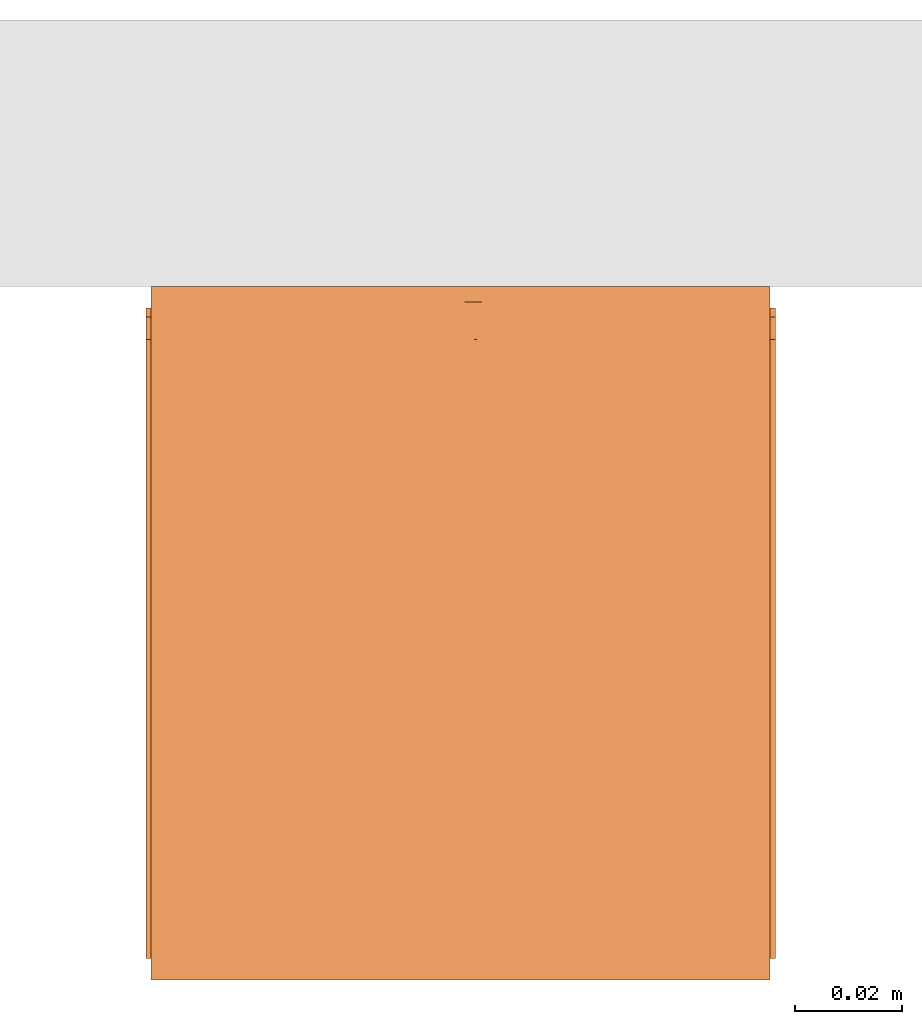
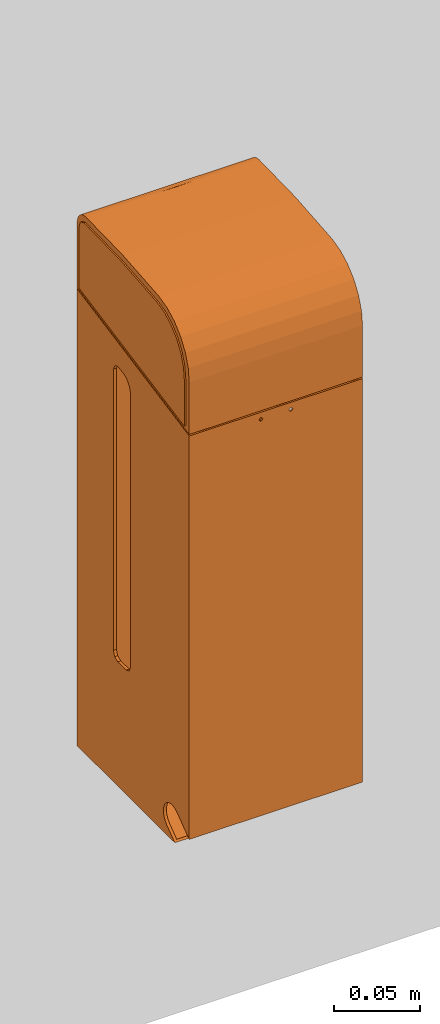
# One storey, part 2 of 2: 1 proxy.
"""IFC2X3 building model written with IfcOpenShell, lengths in millimetres."""

from ifc_helpers import new_model, entity, si_unit, converted_unit, derived_unit, direction, frame, origin, place, context, subcontext, project, spatial, faceted_brep, source, transform, mapped, element, save


model = new_model("IFC2X3")

# Units and contexts
model_context = context("Model", 3, precision=1e-05, world=origin(), true_north=direction((2.0, 6.12303176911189e-17, 1.0)))
context_of_model = context(None, 3, precision=1e-05, world=origin(), true_north=direction((2.0, 6.12303176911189e-17, 1.0)))
body_context = subcontext(model_context, "Body", "Model", "MODEL_VIEW")
ifc_project = project(units=[si_unit("LENGTHUNIT", "METRE", prefix="MILLI"), si_unit("AREAUNIT", "SQUARE_METRE"), si_unit("VOLUMEUNIT", "CUBIC_METRE"), converted_unit("PLANEANGLEUNIT", "DEGREE", entity("IfcRatioMeasure", 0.0174532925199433), si_unit("PLANEANGLEUNIT", "RADIAN"), dimensions=[0, 0, 0, 0, 0, 0, 0]), si_unit("MASSUNIT", "GRAM", prefix="KILO"), si_unit("TIMEUNIT", "SECOND"), si_unit("THERMODYNAMICTEMPERATUREUNIT", "KELVIN"), derived_unit("THERMALTRANSMITTANCEUNIT", [(si_unit("MASSUNIT", "GRAM", prefix="KILO"), 1), (si_unit("THERMODYNAMICTEMPERATUREUNIT", "KELVIN"), -1), (si_unit("TIMEUNIT", "SECOND"), -3)]), derived_unit("VOLUMETRICFLOWRATEUNIT", [(si_unit("LENGTHUNIT", "METRE"), 3), (si_unit("TIMEUNIT", "SECOND"), -1)]), si_unit("POWERUNIT", "WATT")], contexts=[model_context, context_of_model])

# Site, building, storey
site_placement = place(None, origin())
site = spatial("IfcSite", under=ifc_project, at=site_placement, Name="Default", CompositionType="ELEMENT")
building_placement = place(site_placement, origin())
building = spatial("IfcBuilding", under=site, at=building_placement, CompositionType="ELEMENT")
storey_placement = place(building_placement, origin())
storey = spatial("IfcBuildingStorey", under=building, at=storey_placement, Name="Level 1", CompositionType="ELEMENT", Elevation=0.0)

# Proxy
shared_shape = source(origin(), body_context, "Body", "Brep", [
    faceted_brep([(56.0, -125.983737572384, 335.704617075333), (56.0, -124.942873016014, 344.298734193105), (56.0, -121.880468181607, 352.395889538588), (56.0, -116.973609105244, 359.527858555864), (56.0, -110.506038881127, 365.282229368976), (56.0, -102.851749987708, 369.32625083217), (56.0, -94.4533578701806, 371.426074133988), (56.0, -73.3525424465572, 373.338848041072), (56.0, -52.2517270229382, 375.251621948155), (56.0, -37.0868323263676, 375.589126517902), (56.0, -23.4871910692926, 375.891795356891), (56.0, -9.88754981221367, 376.194464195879), (56.0, -5.71389210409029, 374.475570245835), (56.0, -3.98373757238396, 370.306567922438), (56.0, -3.98373757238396, 326.549898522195), (56.0, -125.983737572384, 302.835500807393), (59.0, -102.851749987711, 369.326250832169), (59.0, -110.506038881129, 365.282229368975), (59.0, -116.973609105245, 359.527858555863), (59.0, -121.880468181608, 352.395889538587), (59.0, -124.942873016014, 344.298734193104), (59.0, -125.983737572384, 335.704617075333), (59.0, -125.983737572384, 302.835500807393), (59.0, -3.98373757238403, 326.549898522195), (59.0, -3.98373757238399, 370.306567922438), (59.0, -5.71389210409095, 374.475570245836), (59.0, -9.88754981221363, 376.194464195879), (59.0, -31.0696384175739, 375.723043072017), (59.0, -52.251727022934, 375.251621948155), (59.0, -73.3525424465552, 373.338848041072), (59.0, -94.45335787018, 371.426074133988)], [[[0, 1, 2, 3, 4, 5, 6, 7, 8, 9, 10, 11, 12, 13, 14, 15]], [[16, 17, 18, 19, 20, 21, 22, 23, 24, 25, 26, 27, 28, 29, 30]], [[16, 30, 6, 5]], [[17, 16, 5, 4]], [[18, 17, 4, 3]], [[20, 19, 2, 1]], [[21, 20, 1, 0]], [[3, 2, 19, 18]], [[22, 21, 0, 15]], [[23, 22, 15, 14]], [[24, 23, 14, 13]], [[24, 13, 12, 25]], [[12, 11, 26, 25]], [[28, 27, 26, 11, 10, 9, 8]], [[29, 28, 8, 7, 6, 30]]]),
    faceted_brep([(-56.0, -52.2517270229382, 375.251621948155), (-56.0, -31.0696384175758, 375.723043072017), (-56.0, -9.8875498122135, 376.194464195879), (-59.0, -9.8875498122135, 376.194464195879), (-59.0, -23.4871903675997, 375.891795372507), (-59.0, -37.086830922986, 375.589126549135), (-59.0, -52.2517270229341, 375.251621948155), (-56.0, -73.3525424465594, 373.338848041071), (-59.0, -73.3525424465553, 373.338848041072), (-59.0, -94.4533578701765, 371.426074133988), (-56.0, -94.4533578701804, 371.426074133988), (-56.0, -3.98373757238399, 370.306567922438), (-59.0, -3.98373757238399, 370.306567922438), (-59.0, -5.71389210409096, 374.475570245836), (-56.0, -5.7138921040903, 374.475570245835), (-56.0, -3.98373757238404, 326.549898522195), (-59.0, -3.98373757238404, 326.549898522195), (-56.0, -102.851749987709, 369.32625083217), (-59.0, -102.851749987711, 369.326250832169), (-56.0, -110.506038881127, 365.282229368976), (-59.0, -110.506038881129, 365.282229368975), (-56.0, -116.973609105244, 359.527858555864), (-59.0, -116.973609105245, 359.527858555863), (-56.0, -121.880468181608, 352.395889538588), (-59.0, -121.880468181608, 352.395889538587), (-56.0, -124.942873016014, 344.298734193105), (-59.0, -124.942873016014, 344.298734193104), (-56.0, -125.983737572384, 335.704617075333), (-59.0, -125.983737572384, 335.704617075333), (-56.0, -125.983737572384, 302.835500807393), (-59.0, -125.983737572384, 302.835500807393)], [[[0, 1, 2, 3, 4, 5, 6]], [[7, 0, 6, 8, 9, 10]], [[11, 12, 13, 14]], [[13, 3, 2, 14]], [[11, 15, 16, 12]], [[17, 10, 9, 18]], [[19, 17, 18, 20]], [[21, 19, 20, 22]], [[23, 21, 22, 24]], [[25, 23, 24, 26]], [[27, 25, 26, 28]], [[29, 27, 28, 30]], [[15, 29, 30, 16]], [[11, 14, 2, 1, 0, 7, 10, 17, 19, 21, 23, 25, 27, 29, 15]], [[3, 13, 12, 16, 30, 28, 26, 24, 22, 20, 18, 9, 8, 6, 5, 4]]]),
    faceted_brep([(-58.0, -56.8158110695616, 87.9831127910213), (-56.0, -56.8158110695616, 87.9831127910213), (-56.0, -47.1196560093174, 87.9831127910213), (-58.0, -47.1196560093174, 87.9831127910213), (56.0, -56.8158110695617, 87.9831127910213), (58.0, -56.8158110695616, 87.9831127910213), (58.0, -47.1196560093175, 87.9831127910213), (56.0, -47.1196560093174, 87.9831127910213), (58.0, -60.3513449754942, 89.4475788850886), (56.0, -60.3513449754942, 89.4475788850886), (56.0, -61.8158110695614, 92.9831127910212), (58.0, -61.8158110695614, 92.9831127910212), (-56.0, -60.3513449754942, 89.4475788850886), (-58.0, -60.3513449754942, 89.4475788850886), (-58.0, -61.8158110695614, 92.9831127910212), (-56.0, -61.8158110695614, 92.9831127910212), (-58.0, -61.815811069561, 286.119152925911), (-56.0, -61.815811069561, 286.119152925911), (56.0, -61.815811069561, 286.119152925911), (58.0, -61.815811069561, 286.119152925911), (56.0, -0.983737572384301, 370.31230618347), (56.0, -1.00302714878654, 323.054423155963), (56.0, -1.19383614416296, 324.03605033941), (56.0, -128.983737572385, 299.196209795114), (56.0, -128.983737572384, 335.704617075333), (56.0, -127.856134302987, 345.014910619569), (56.0, -124.538529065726, 353.786828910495), (56.0, -119.22276506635, 361.513128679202), (56.0, -112.216230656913, 367.747030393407), (56.0, -103.924084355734, 372.128053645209), (56.0, -94.8258262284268, 374.402862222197), (56.0, -52.4303911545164, 378.246312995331), (56.0, -9.87165529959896, 379.194485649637), (56.0, -7.8942415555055, 378.972885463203), (56.0, -6.01577692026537, 378.316651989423), (56.0, -4.33053260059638, 377.258718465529), (56.0, -2.9230829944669, 375.852177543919), (56.0, -1.86406130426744, 374.16761682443), (56.0, -1.20661479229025, 372.289576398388), (56.0, -100.787585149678, 11.0717967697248), (56.0, -100.084242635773, 13.5857864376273), (56.0, -0.983737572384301, 1.0), (56.0, -102.11763025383, 8.82550766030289), (56.0, -100.055534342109, 16.196152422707), (56.0, -100.703416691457, 18.7250025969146), (56.0, -101.983737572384, 21.0), (56.0, -103.809245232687, 22.8661073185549), (56.0, -106.055534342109, 24.1961524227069), (56.0, -108.569524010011, 24.8994949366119), (56.0, -111.179889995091, 24.9282032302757), (56.0, -113.708740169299, 24.2803208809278), (56.0, -115.983737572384, 23.0), (56.0, -128.983737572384, 298.177493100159), (56.0, -128.983737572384, 13.2500000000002), (56.0, -61.5462597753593, 288.425311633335), (56.0, -60.7521374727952, 290.607144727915), (56.0, -59.476255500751, 292.547029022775), (56.0, -57.7873969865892, 294.14038485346), (56.0, -55.7766087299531, 295.301313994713), (56.0, -53.5522928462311, 295.967230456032), (56.0, -47.9878968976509, 296.948383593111), (56.0, -43.905717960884, 295.854567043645), (56.0, -42.1196560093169, 292.024344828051), (56.0, -42.1196560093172, 92.9831127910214), (56.0, -43.5841221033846, 89.4475788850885), (56.0, -103.983737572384, 7.0), (56.0, -111.983737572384, 1.0), (-56.0, -115.983737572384, 23.0), (-58.0, -115.983737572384, 23.0), (-58.0, -113.708740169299, 24.2803208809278), (-56.0, -113.708740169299, 24.2803208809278), (58.0, -113.708740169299, 24.2803208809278), (58.0, -115.983737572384, 23.0), (-58.0, -111.179889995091, 24.9282032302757), (-56.0, -111.179889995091, 24.9282032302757), (58.0, -111.179889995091, 24.9282032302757), (-56.0, -106.055534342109, 24.1961524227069), (-56.0, -108.569524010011, 24.8994949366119), (-58.0, -108.569524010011, 24.8994949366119), (-58.0, -106.055534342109, 24.1961524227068), (58.0, -106.055534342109, 24.1961524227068), (58.0, -108.569524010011, 24.8994949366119), (-56.0, -103.809245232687, 22.8661073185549), (-58.0, -103.809245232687, 22.8661073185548), (58.0, -103.809245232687, 22.8661073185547), (-58.0, -101.983737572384, 21.0), (-56.0, -101.983737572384, 21.0), (58.0, -101.983737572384, 21.0), (-56.0, -100.703416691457, 18.7250025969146), (-58.0, -100.703416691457, 18.7250025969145), (-58.0, -100.055534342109, 16.1961524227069), (-56.0, -100.055534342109, 16.196152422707), (58.0, -100.055534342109, 16.1961524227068), (58.0, -100.703416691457, 18.7250025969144), (-58.0, -100.084242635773, 13.5857864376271), (-56.0, -100.084242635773, 13.5857864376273), (58.0, -100.084242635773, 13.5857864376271), (-56.0, -102.11763025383, 8.82550766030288), (-56.0, -100.787585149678, 11.0717967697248), (-58.0, -100.787585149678, 11.0717967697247), (-58.0, -102.11763025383, 8.82550766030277), (58.0, -102.11763025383, 8.82550766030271), (58.0, -100.787585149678, 11.0717967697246), (-56.0, -103.983737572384, 7.0), (-58.0, -103.983737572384, 7.0), (58.0, -103.983737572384, 7.0), (58.0, -129.983737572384, 297.983112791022), (10.0, -129.983737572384, 294.483112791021), (11.5, -129.983737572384, 292.983112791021), (-10.0, -129.983737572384, 294.483112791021), (10.0, -129.983737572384, 291.483112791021), (58.0, -129.983737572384, 12.5000000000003), (-58.0, -129.983737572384, 297.983112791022), (-11.5, -129.983737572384, 292.983112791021), (-10.0, -129.983737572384, 291.483112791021), (-58.0, -129.983737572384, 12.5000000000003), (8.49999999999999, -129.983737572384, 292.983112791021), (-8.50000000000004, -129.983737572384, 292.983112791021), (58.0, -129.983737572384, 299.001829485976), (58.0, -129.983737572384, 335.704617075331), (-58.0, -129.983737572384, 335.704617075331), (-58.0, -129.983737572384, 299.001829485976), (-56.0, -47.9878968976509, 296.948383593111), (-56.0, -43.905717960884, 295.854567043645), (-56.0, -0.983737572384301, 323.058172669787), (-56.0, -53.5522928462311, 295.967230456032), (-56.0, -42.1196560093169, 292.024344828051), (-56.0, -42.1196560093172, 92.9831127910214), (-56.0, -0.983737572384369, 1.0), (-56.0, -43.5841221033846, 89.4475788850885), (-56.0, -128.983737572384, 298.177493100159), (-56.0, -61.5462597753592, 288.425311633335), (-56.0, -60.7521374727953, 290.607144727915), (-56.0, -59.476255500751, 292.547029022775), (-56.0, -57.7873969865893, 294.14038485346), (-56.0, -55.7766087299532, 295.301313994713), (-56.0, -128.983737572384, 13.2500000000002), (-56.0, -111.983737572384, 1.0), (-56.0, -1.20661479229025, 372.289576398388), (-56.0, -1.86406130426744, 374.16761682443), (-56.0, -2.9230829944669, 375.852177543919), (-56.0, -4.33053260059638, 377.258718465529), (-56.0, -6.01577692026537, 378.316651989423), (-56.0, -7.8942415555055, 378.972885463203), (-56.0, -9.87165529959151, 379.194485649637), (-56.0, -52.4303911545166, 378.246312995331), (-56.0, -94.8258262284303, 374.402862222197), (-56.0, -103.924084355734, 372.128053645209), (-56.0, -112.216230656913, 367.747030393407), (-56.0, -119.22276506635, 361.513128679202), (-56.0, -124.538529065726, 353.786828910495), (-56.0, -127.856134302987, 345.014910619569), (-56.0, -128.983737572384, 335.704617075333), (-56.0, -128.983737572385, 299.196209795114), (-56.0, -1.19383614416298, 324.03605033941), (-56.0, -0.983737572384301, 370.31230618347), (11.5, -128.983737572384, 292.983112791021), (10.0, -128.983737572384, 294.483112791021), (10.0, -128.983737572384, 291.483112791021), (-10.0, -128.983737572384, 294.483112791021), (-8.50000000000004, -128.983737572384, 292.983112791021), (8.49999999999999, -128.983737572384, 292.983112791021), (-10.0, -128.983737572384, 291.483112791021), (-11.5, -128.983737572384, 292.983112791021), (58.0, -43.905717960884, 295.854567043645), (58.0, -42.1196560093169, 292.024344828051), (-58.0, -43.905717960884, 295.854567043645), (-58.0, -42.1196560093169, 292.024344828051), (58.0, -47.9878968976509, 296.948383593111), (-58.0, -47.9878968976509, 296.948383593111), (-58.0, -53.5522928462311, 295.967230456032), (58.0, -53.5522928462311, 295.967230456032), (58.0, -55.7766087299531, 295.301313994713), (-58.0, -55.7766087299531, 295.301313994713), (58.0, -57.7873969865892, 294.14038485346), (-58.0, -57.7873969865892, 294.14038485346), (58.0, -59.476255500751, 292.547029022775), (-58.0, -59.476255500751, 292.547029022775), (58.0, -60.7521374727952, 290.607144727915), (58.0, -61.5462597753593, 288.425311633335), (-58.0, -61.5462597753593, 288.425311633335), (-58.0, -60.7521374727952, 290.607144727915), (58.0, -43.5841221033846, 89.4475788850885), (-58.0, -43.5841221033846, 89.4475788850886), (58.0, -42.1196560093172, 92.9831127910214), (-58.0, -42.1196560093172, 92.9831127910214), (-58.0, -1.00302714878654, 323.054423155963), (-58.0, -1.19383614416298, 324.03605033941), (58.0, -1.00302714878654, 323.054423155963), (58.0, -1.19383614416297, 324.03605033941), (58.0, 0.0162624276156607, 0.0), (58.0, -113.317070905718, 0.0), (58.0, 0.0162624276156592, 370.195181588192), (58.0, -52.4897270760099, 379.244555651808), (58.0, -9.86591889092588, 380.194487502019), (58.0, -0.319415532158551, 372.764399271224), (58.0, -1.30391347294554, 375.161131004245), (58.0, -2.87113654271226, 377.224470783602), (58.0, -4.91586829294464, 378.815895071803), (58.0, -7.30083444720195, 379.828562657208), (58.0, -94.9499823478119, 375.395124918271), (58.0, -128.827221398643, 345.25363609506), (58.0, -125.424549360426, 354.250475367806), (58.0, -119.97248372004, 362.174885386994), (58.0, -112.786294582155, 368.568630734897), (58.0, -104.281529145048, 373.061987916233), (-58.0, -9.86591889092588, 380.194487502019), (-58.0, -4.91586829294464, 378.815895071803), (-58.0, -2.87113654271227, 377.224470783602), (-58.0, -1.30391347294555, 375.161131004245), (-58.0, -7.30083444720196, 379.828562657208), (-58.0, -0.319415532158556, 372.764399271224), (-58.0, 0.0162624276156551, 370.195181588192), (-58.0, -52.4897270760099, 379.244555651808), (-58.0, 0.0162624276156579, 0.0), (-58.0, -113.317070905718, 0.0), (-58.0, -94.9499823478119, 375.395124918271), (-58.0, -128.827221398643, 345.25363609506), (-58.0, -125.424549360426, 354.250475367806), (-58.0, -119.97248372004, 362.174885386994), (-58.0, -112.786294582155, 368.568630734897), (-58.0, -104.281529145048, 373.061987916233), (2.41261363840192, -2.85915220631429, 377.212323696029), (-2.79130015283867, 0.0162624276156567, 370.195181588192), (2.79130423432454, -9.86591889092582, 380.194487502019), (3.96838328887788, -9.87165529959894, 379.194485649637), (3.96838310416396, -0.983737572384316, 370.31230618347), (6.77185834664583, -3.58729676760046, 376.594984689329)], [[[0, 1, 2, 3]], [[4, 5, 6, 7]], [[8, 9, 10, 11]], [[12, 13, 14, 15]], [[5, 4, 9, 8]], [[1, 0, 13, 12]], [[16, 17, 15, 14]], [[18, 19, 11, 10]], [[20, 21, 22, 23, 24, 25, 26, 27, 28, 29, 30, 31, 32, 33, 34, 35, 36, 37, 38]], [[20, 21, 22]], [[20, 22, 31]], [[20, 31, 32]], [[33, 20, 32]], [[20, 33, 34]], [[35, 20, 34]], [[35, 38, 20]], [[22, 23, 31]], [[30, 31, 23]], [[30, 23, 24]], [[30, 24, 28]], [[24, 27, 28]], [[27, 24, 26]], [[25, 26, 24]], [[30, 28, 29]], [[36, 38, 35]], [[36, 37, 38]], [[39, 40, 41]], [[41, 42, 39]], [[43, 41, 40]], [[43, 44, 41]], [[7, 41, 44]], [[7, 44, 4]], [[44, 45, 4]], [[46, 4, 45]], [[46, 9, 4]], [[9, 46, 47]], [[47, 48, 9]], [[48, 10, 9]], [[10, 48, 49]], [[49, 50, 10]], [[50, 51, 10]], [[51, 52, 10]], [[51, 53, 52]], [[52, 18, 10]], [[18, 52, 54]], [[52, 55, 54]], [[56, 55, 52]], [[52, 57, 56]], [[52, 58, 57]], [[58, 52, 59]], [[21, 59, 52]], [[21, 60, 59]], [[60, 21, 61]], [[62, 61, 21]], [[21, 63, 62]], [[21, 41, 63]], [[41, 64, 63]], [[7, 64, 41]], [[65, 42, 41]], [[41, 66, 65]], [[67, 68, 69, 70]], [[51, 50, 71, 72]], [[70, 69, 73, 74]], [[50, 49, 75, 71]], [[76, 77, 78, 79]], [[48, 47, 80, 81]], [[73, 78, 77, 74]], [[49, 48, 81, 75]], [[82, 76, 79, 83]], [[47, 46, 84, 80]], [[85, 86, 82, 83]], [[46, 45, 87, 84]], [[88, 89, 90, 91]], [[44, 43, 92, 93]], [[91, 90, 94, 95]], [[43, 40, 96, 92]], [[97, 98, 99, 100]], [[39, 42, 101, 102]], [[94, 99, 98, 95]], [[40, 39, 102, 96]], [[103, 97, 100, 104]], [[42, 65, 105, 101]], [[88, 86, 85, 89]], [[93, 87, 45, 44]], [[106, 107, 108]], [[107, 106, 109]], [[106, 108, 110]], [[110, 111, 106]], [[112, 109, 106]], [[109, 112, 113]], [[113, 112, 114]], [[115, 114, 112]], [[115, 111, 110]], [[114, 115, 110]], [[114, 110, 116]], [[107, 117, 116]], [[114, 116, 117]], [[109, 117, 107]], [[118, 119, 120, 121]], [[122, 123, 124]], [[124, 125, 122]], [[126, 124, 123]], [[124, 126, 127]], [[127, 128, 124]], [[129, 128, 127]], [[128, 129, 2]], [[2, 88, 128]], [[88, 2, 1]], [[88, 1, 86]], [[1, 82, 86]], [[82, 1, 12]], [[76, 82, 12]], [[76, 12, 77]], [[15, 77, 12]], [[77, 15, 74]], [[74, 15, 70]], [[70, 15, 67]], [[67, 15, 130]], [[130, 15, 17]], [[130, 17, 131]], [[131, 132, 130]], [[133, 130, 132]], [[130, 133, 134]], [[135, 130, 134]], [[135, 125, 130]], [[125, 124, 130]], [[67, 130, 136]], [[91, 128, 88]], [[91, 95, 128]], [[98, 128, 95]], [[128, 98, 97]], [[97, 103, 128]], [[137, 128, 103]], [[138, 139, 140, 141, 142, 143, 144, 145, 146, 147, 148, 149, 150, 151, 152, 153, 154, 124, 155]], [[156, 157, 52]], [[158, 156, 52]], [[159, 52, 157]], [[157, 160, 159]], [[161, 160, 157]], [[161, 158, 162]], [[160, 161, 162]], [[158, 136, 162]], [[130, 162, 136]], [[162, 130, 163]], [[163, 130, 159]], [[52, 159, 130]], [[52, 53, 158]], [[158, 53, 136]], [[152, 24, 23, 153]], [[164, 61, 62, 165]], [[123, 166, 167, 126]], [[168, 60, 61, 164]], [[122, 169, 166, 123]], [[169, 122, 125, 170]], [[60, 168, 171, 59]], [[58, 59, 171, 172]], [[135, 173, 170, 125]], [[57, 58, 172, 174]], [[134, 175, 173, 135]], [[57, 174, 176, 56]], [[175, 134, 133, 177]], [[54, 55, 178, 179]], [[131, 180, 181, 132]], [[18, 54, 179, 19]], [[17, 16, 180, 131]], [[176, 178, 55, 56]], [[133, 132, 181, 177]], [[182, 64, 7, 6]], [[129, 183, 3, 2]], [[184, 63, 64, 182]], [[127, 185, 183, 129]], [[185, 127, 126, 167]], [[63, 184, 165, 62]], [[186, 124, 154]], [[154, 187, 186]], [[21, 188, 189, 22]], [[190, 182, 6]], [[182, 190, 184]], [[6, 93, 190]], [[92, 190, 93]], [[190, 92, 96]], [[190, 96, 102]], [[184, 190, 188]], [[102, 101, 190]], [[101, 105, 190]], [[105, 191, 190]], [[192, 188, 190]], [[188, 192, 189]], [[189, 192, 193]], [[194, 193, 192]], [[194, 192, 195]], [[194, 195, 196]], [[194, 196, 197]], [[194, 197, 198]], [[199, 194, 198]], [[189, 193, 118]], [[200, 118, 193]], [[119, 118, 200]], [[119, 200, 201]], [[202, 201, 200]], [[203, 202, 200]], [[200, 204, 203]], [[204, 200, 205]], [[188, 165, 184]], [[164, 165, 188]], [[164, 188, 168]], [[168, 188, 171]], [[106, 171, 188]], [[172, 171, 106]], [[172, 106, 174]], [[174, 106, 176]], [[178, 176, 106]], [[179, 178, 106]], [[19, 179, 106]], [[19, 106, 11]], [[11, 106, 72]], [[106, 111, 72]], [[72, 71, 11]], [[71, 75, 11]], [[75, 81, 11]], [[81, 8, 11]], [[80, 8, 81]], [[80, 84, 8]], [[84, 5, 8]], [[84, 87, 5]], [[93, 5, 87]], [[5, 93, 6]], [[206, 207, 208]], [[206, 208, 209]], [[210, 207, 206]], [[206, 209, 211]], [[212, 206, 211]], [[213, 206, 212]], [[212, 187, 213]], [[187, 212, 186]], [[186, 212, 214]], [[186, 214, 185]], [[214, 183, 185]], [[183, 214, 3]], [[89, 3, 214]], [[214, 90, 89]], [[214, 94, 90]], [[214, 99, 94]], [[99, 214, 100]], [[100, 214, 104]], [[215, 104, 214]], [[3, 89, 0]], [[89, 85, 0]], [[83, 0, 85]], [[83, 13, 0]], [[83, 79, 13]], [[79, 78, 13]], [[14, 13, 78]], [[78, 73, 14]], [[73, 69, 14]], [[69, 68, 14]], [[14, 68, 112]], [[115, 112, 68]], [[170, 112, 186]], [[170, 173, 112]], [[112, 173, 175]], [[175, 177, 112]], [[112, 177, 181]], [[16, 14, 112]], [[180, 112, 181]], [[16, 112, 180]], [[167, 186, 185]], [[186, 167, 166]], [[186, 166, 169]], [[170, 186, 169]], [[121, 213, 187]], [[216, 213, 121]], [[120, 216, 121]], [[216, 120, 217]], [[218, 216, 217]], [[216, 218, 219]], [[220, 216, 219]], [[216, 220, 221]], [[209, 208, 222]], [[196, 222, 197]], [[207, 210, 222]], [[211, 223, 212]], [[195, 192, 223]], [[224, 199, 198]], [[199, 224, 194]], [[206, 224, 210]], [[223, 211, 209]], [[195, 223, 222]], [[198, 222, 224]], [[196, 195, 222]], [[222, 208, 207]], [[222, 198, 197]], [[210, 224, 222]], [[222, 223, 209]], [[193, 194, 224, 206, 213]], [[213, 216, 200, 193]], [[205, 221, 220, 204]], [[204, 220, 219, 203]], [[216, 221, 205, 200]], [[202, 218, 217, 201]], [[201, 217, 120, 119]], [[203, 219, 218, 202]], [[111, 115, 68, 67, 136, 53, 51, 72]], [[105, 65, 66, 137, 103, 104, 215, 191]], [[190, 191, 215, 214]], [[190, 214, 212, 223, 192]], [[31, 145, 144, 225, 32]], [[30, 146, 145, 31]], [[148, 147, 29, 28]], [[149, 148, 28, 27]], [[30, 29, 147, 146]], [[151, 150, 26, 25]], [[152, 151, 25, 24]], [[26, 150, 149, 27]], [[128, 137, 66, 41]], [[128, 41, 21]], [[124, 21, 20]], [[21, 124, 128]], [[124, 20, 226, 155]], [[35, 227, 36]], [[142, 141, 227]], [[226, 138, 155]], [[226, 20, 38]], [[139, 226, 227]], [[140, 139, 227]], [[138, 226, 139]], [[140, 227, 141]], [[37, 226, 38]], [[225, 143, 142]], [[34, 33, 225]], [[142, 227, 225]], [[225, 144, 143]], [[225, 33, 32]], [[36, 227, 37]], [[34, 227, 35]], [[34, 225, 227]], [[226, 37, 227]], [[188, 21, 52, 130, 124, 186, 112, 106]], [[23, 22, 189, 118, 121, 187, 154, 153]], [[114, 162, 163, 113]], [[117, 160, 162, 114]], [[109, 159, 160, 117]], [[113, 163, 159, 109]], [[110, 158, 161, 116]], [[108, 156, 158, 110]], [[107, 157, 156, 108]], [[116, 161, 157, 107]]]),
])
proxy_placement = place(storey_placement, frame((-15.7477365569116, 3952.69853342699, 212.697030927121)))
element("IfcBuildingElementProxy", 1, at=proxy_placement, inside=storey, Name="BC707-3SS:BC707-3SS Dolphin Three Roll Toilet Roll Holder", ObjectType="BC707-3SS Dolphin Three Roll Toilet Roll Holder", CompositionType="ELEMENT", context=body_context, shape_type="MappedRepresentation", body=[
    mapped(shared_shape, transform((0.0, 0.0, 0.0), scale=1.0)),
])

save(model, "model.ifc")
